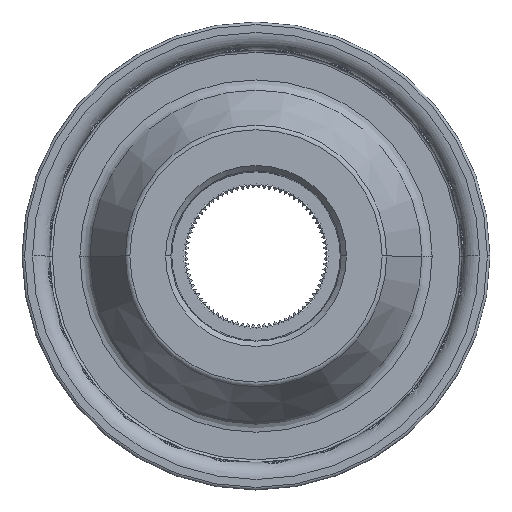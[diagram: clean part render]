
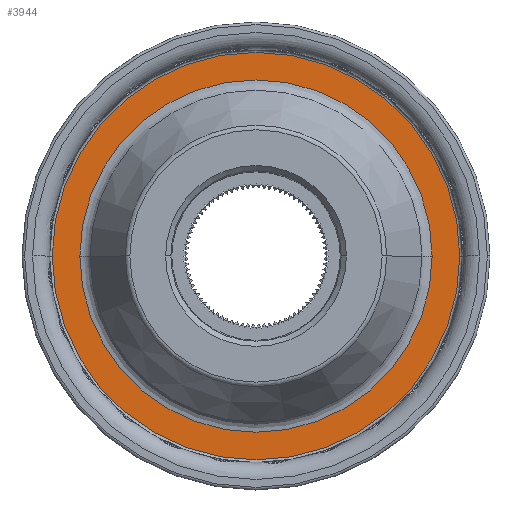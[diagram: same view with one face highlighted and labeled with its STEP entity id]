
A CAD part, top view. The second image highlights one B-rep face of the part: STEP entity #3944.
In plain terms, the highlighted planar face has unit normal (0, 0, 1).
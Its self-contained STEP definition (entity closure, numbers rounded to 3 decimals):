
#776 = DIRECTION ( 'NONE',  ( 0., 0., 1. ) ) ;
#818 = VERTEX_POINT ( 'NONE', #31178 ) ;
#1221 = CARTESIAN_POINT ( 'NONE',  ( 77.5, 0., -26.43 ) ) ;
#1549 = DIRECTION ( 'NONE',  ( 1., 0., 0. ) ) ;
#3944 = ADVANCED_FACE ( 'NONE', ( #26924, #8420 ), #20837, .F. ) ;
#3971 = AXIS2_PLACEMENT_3D ( 'NONE', #17015, #29402, #1549 ) ;
#5364 = DIRECTION ( 'NONE',  ( 0., 0., -1. ) ) ;
#6133 = EDGE_LOOP ( 'NONE', ( #36528, #37035 ) ) ;
#6412 = VERTEX_POINT ( 'NONE', #34681 ) ;
#8420 = FACE_OUTER_BOUND ( 'NONE', #14187, .T. ) ;
#8423 = VERTEX_POINT ( 'NONE', #1221 ) ;
#8935 = CIRCLE ( 'NONE', #31664, 77.5 ) ;
#9028 = EDGE_CURVE ( 'NONE', #8423, #818, #37893, .T. ) ;
#9859 = DIRECTION ( 'NONE',  ( 0., 0., 1. ) ) ;
#11147 = EDGE_CURVE ( 'NONE', #14335, #6412, #21525, .T. ) ;
#11680 = CARTESIAN_POINT ( 'NONE',  ( 0., 0., -26.43 ) ) ;
#13195 = DIRECTION ( 'NONE',  ( 1., 0., 0. ) ) ;
#14187 = EDGE_LOOP ( 'NONE', ( #24359, #33793 ) ) ;
#14335 = VERTEX_POINT ( 'NONE', #14439 ) ;
#14439 = CARTESIAN_POINT ( 'NONE',  ( -67., 0., -26.43 ) ) ;
#17015 = CARTESIAN_POINT ( 'NONE',  ( 0., 0., -26.43 ) ) ;
#17778 = DIRECTION ( 'NONE',  ( -1., 0., 0. ) ) ;
#20334 = AXIS2_PLACEMENT_3D ( 'NONE', #11680, #24088, #36511 ) ;
#20449 = EDGE_CURVE ( 'NONE', #6412, #14335, #31543, .T. ) ;
#20837 = PLANE ( 'NONE',  #30252 ) ;
#21525 = CIRCLE ( 'NONE', #3971, 67. ) ;
#22258 = DIRECTION ( 'NONE',  ( 1., 0., 0. ) ) ;
#24088 = DIRECTION ( 'NONE',  ( 0., 0., 1. ) ) ;
#24359 = ORIENTED_EDGE ( 'NONE', *, *, #9028, .T. ) ;
#26924 = FACE_BOUND ( 'NONE', #6133, .T. ) ;
#28634 = CARTESIAN_POINT ( 'NONE',  ( 0., 0., -26.43 ) ) ;
#29402 = DIRECTION ( 'NONE',  ( 0., 0., 1. ) ) ;
#29408 = EDGE_CURVE ( 'NONE', #818, #8423, #8935, .T. ) ;
#30252 = AXIS2_PLACEMENT_3D ( 'NONE', #33244, #5364, #17778 ) ;
#31178 = CARTESIAN_POINT ( 'NONE',  ( -77.5, 0., -26.43 ) ) ;
#31543 = CIRCLE ( 'NONE', #36761, 67. ) ;
#31664 = AXIS2_PLACEMENT_3D ( 'NONE', #37734, #9859, #22258 ) ;
#33244 = CARTESIAN_POINT ( 'NONE',  ( 0., 67., -26.43 ) ) ;
#33793 = ORIENTED_EDGE ( 'NONE', *, *, #29408, .T. ) ;
#34681 = CARTESIAN_POINT ( 'NONE',  ( 67., 0., -26.43 ) ) ;
#36511 = DIRECTION ( 'NONE',  ( 1., 0., 0. ) ) ;
#36528 = ORIENTED_EDGE ( 'NONE', *, *, #20449, .F. ) ;
#36761 = AXIS2_PLACEMENT_3D ( 'NONE', #28634, #776, #13195 ) ;
#37035 = ORIENTED_EDGE ( 'NONE', *, *, #11147, .F. ) ;
#37734 = CARTESIAN_POINT ( 'NONE',  ( 0., 0., -26.43 ) ) ;
#37893 = CIRCLE ( 'NONE', #20334, 77.5 ) ;
